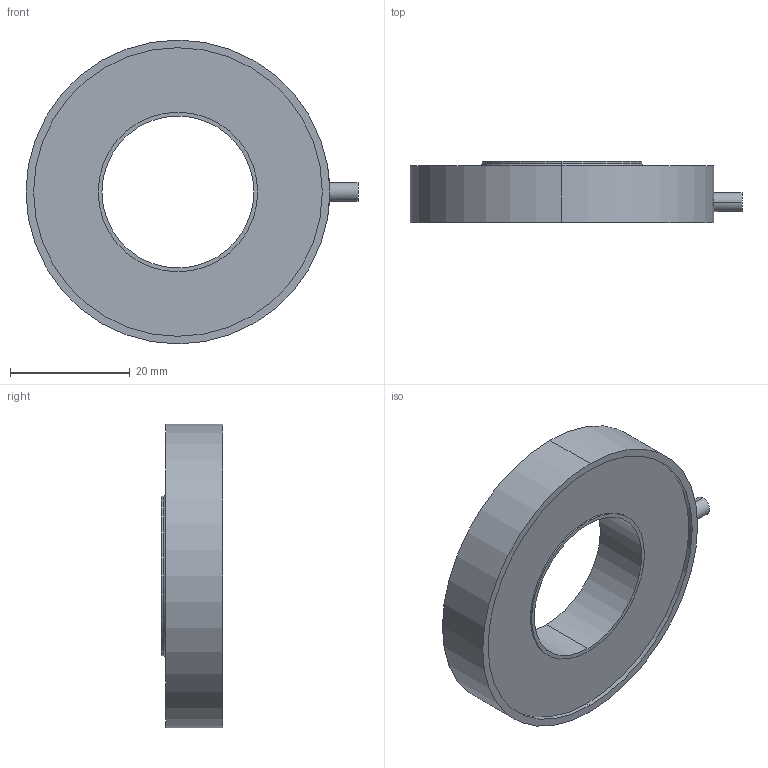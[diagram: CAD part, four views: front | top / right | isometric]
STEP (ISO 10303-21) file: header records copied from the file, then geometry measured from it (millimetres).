
FILE_DESCRIPTION (( 'STEP AP214' ), '1' );
FILE_NAME ('Final ASBY 13928-481-SS1445.STEP', '2024-08-12T14:47:31', ( '' ), ( '' ), 'SwSTEP 2.0', 'SolidWorks 2008', '' );
FILE_SCHEMA (( 'AUTOMOTIVE_DESIGN' ));
Length unit declared in the file: inch
Products named in the file (1): Final ASBY 13928-481-SS1445
Bounding box: 55.5 x 10.29 x 50.8 mm (x, y, z)
Volume: 13531.8 mm3; surface area: 5580.8 mm2
Topology: 1 solids, 1 shells, 20 faces, 40 edges, 26 vertices
Faces by surface type: cylinder 12, plane 6, torus 2
Entity records: 613 total; most frequent: CARTESIAN_POINT 139, DIRECTION 106, ORIENTED_EDGE 80, AXIS2_PLACEMENT_3D 47, EDGE_CURVE 40, CIRCLE 26, EDGE_LOOP 26, VERTEX_POINT 26
